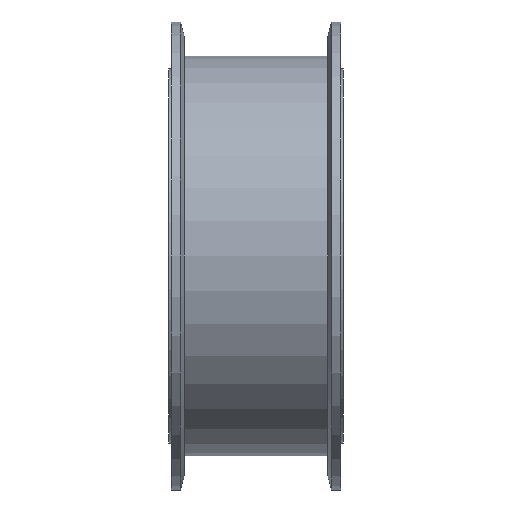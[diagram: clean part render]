
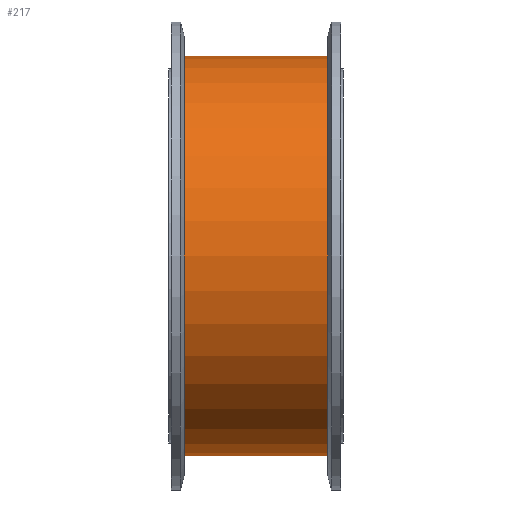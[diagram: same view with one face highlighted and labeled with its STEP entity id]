
A CAD part, front view. The second image highlights one B-rep face of the part: STEP entity #217.
In plain terms, the highlighted cylindrical face has radius 32 mm (diameter 64 mm), a full revolution.
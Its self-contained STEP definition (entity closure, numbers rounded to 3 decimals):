
#31=FACE_BOUND('',#74,.T.);
#51=FACE_OUTER_BOUND('',#73,.T.);
#73=EDGE_LOOP('',(#173));
#74=EDGE_LOOP('',(#174));
#113=CIRCLE('',#244,32.);
#114=CIRCLE('',#245,32.);
#133=VERTEX_POINT('',#371);
#134=VERTEX_POINT('',#373);
#153=EDGE_CURVE('',#133,#133,#113,.T.);
#154=EDGE_CURVE('',#134,#134,#114,.T.);
#173=ORIENTED_EDGE('',*,*,#153,.F.);
#174=ORIENTED_EDGE('',*,*,#154,.F.);
#211=CYLINDRICAL_SURFACE('',#243,32.);
#217=ADVANCED_FACE('',(#51,#31),#211,.T.);
#243=AXIS2_PLACEMENT_3D('',#370,#291,#292);
#244=AXIS2_PLACEMENT_3D('',#372,#293,#294);
#245=AXIS2_PLACEMENT_3D('',#374,#295,#296);
#291=DIRECTION('center_axis',(-1.,0.,0.));
#292=DIRECTION('ref_axis',(0.,-1.,0.));
#293=DIRECTION('center_axis',(1.,0.,0.));
#294=DIRECTION('ref_axis',(0.,-1.,0.));
#295=DIRECTION('center_axis',(-1.,0.,0.));
#296=DIRECTION('ref_axis',(0.,-1.,0.));
#370=CARTESIAN_POINT('Origin',(12.105,22.551,0.));
#371=CARTESIAN_POINT('',(23.605,-9.449,0.));
#372=CARTESIAN_POINT('Origin',(23.605,22.551,0.));
#373=CARTESIAN_POINT('',(0.605,-9.449,0.));
#374=CARTESIAN_POINT('Origin',(0.605,22.551,0.));
